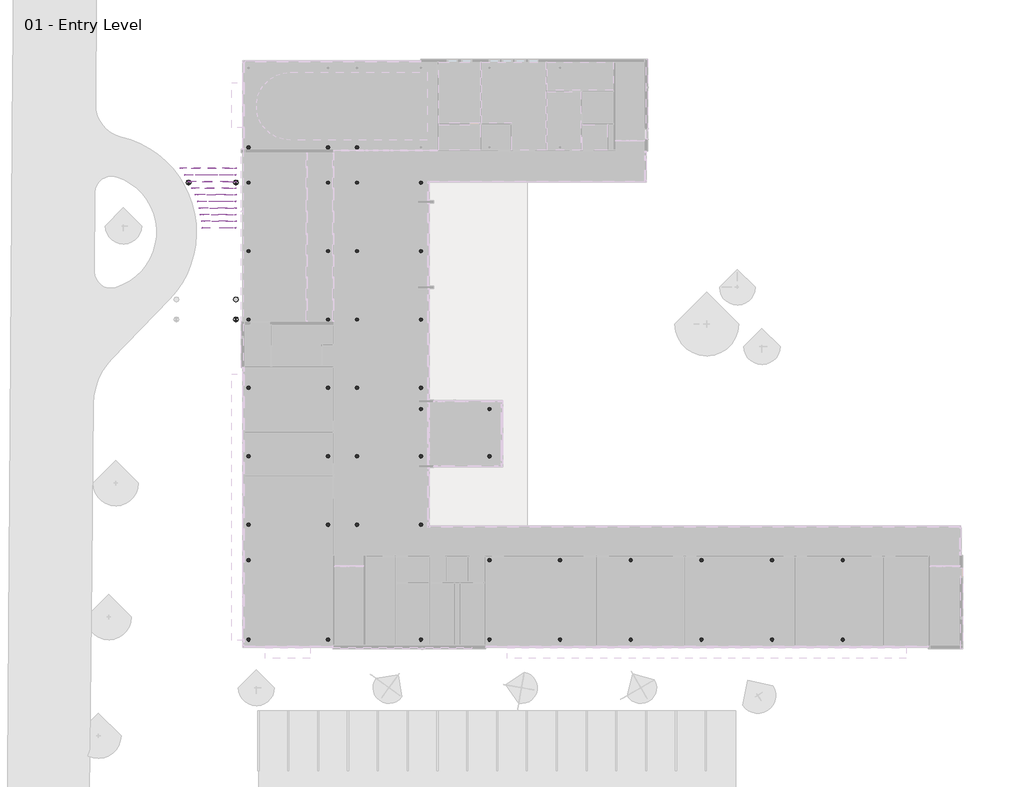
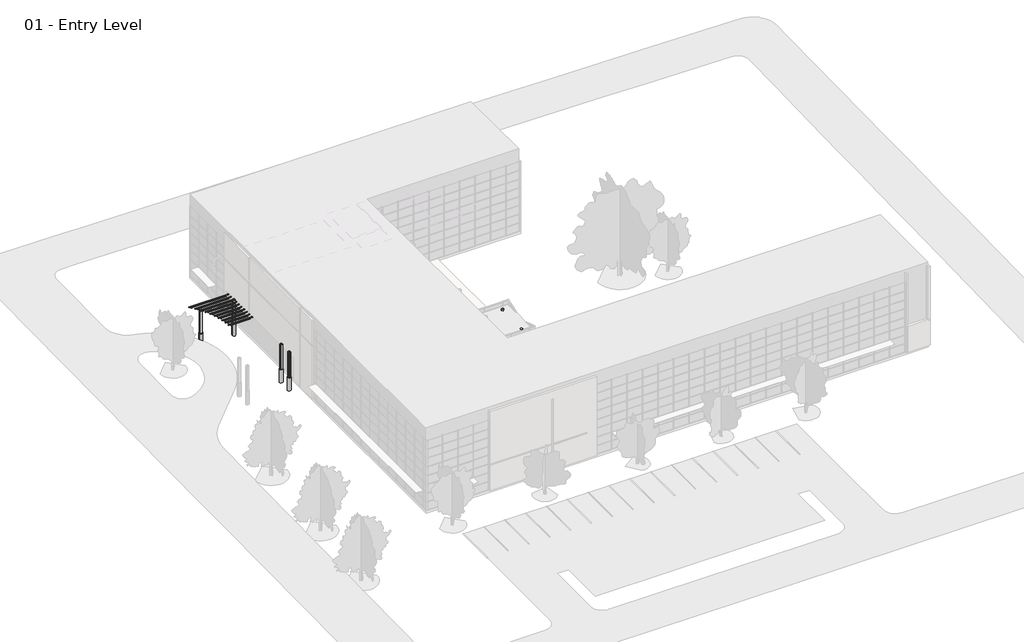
# One storey, part 33 of 34: 54 columns, 10 beams.
"""IFC4 building model written with IfcOpenShell, lengths in millimetres."""

from ifc_helpers import new_model, si_unit, point, frame, frame_2d, origin, origin_with_axes, place, context, project, spatial, polyline, circle_curve, trimmed, segment, composite_curve, outline, extrude, transform, mapped, element, save
from components import k_series_bar_joist_rod_web_8k1_3393dd89, k_series_bar_joist_rod_web_8k1_7a100831, k_series_bar_joist_rod_web_8k1_857b1893, k_series_bar_joist_rod_web_8k1_28d6b3e6, k_series_bar_joist_rod_web_8k1_8956f8d8, k_series_bar_joist_rod_web_8k1_41fa30a3, k_series_bar_joist_rod_web_8k1_279f3ebc, k_series_bar_joist_rod_web_8k1_170a1346, k_series_bar_joist_rod_web_8k1_a6564055, k_series_bar_joist_rod_web_8k1_291a3e72, column_5a4f3ead

model = new_model("IFC4")

# Units and contexts
model_context = context("Model", 3, world=origin())
ifc_project = project(units=[si_unit("LENGTHUNIT", "METRE", prefix="MILLI")], contexts=[model_context])

# Site, building, storey
site = spatial("IfcSite", under=ifc_project)
building = spatial("IfcBuilding", under=site)
storey = spatial("IfcBuildingStorey", under=building, Name="01 - Entry Level", Elevation=0.0)

# Beams
placement = place(None, origin())
k_series_bar_joist_rod_web_8k1_shape = k_series_bar_joist_rod_web_8k1_3393dd89(model_context)
element("IfcBeam", 1, ObjectType="K-Series Bar Joist-Rod Web : 8K1", at=placement, inside=storey, context=model_context, shape_type="MappedRepresentation", body=[
    mapped(k_series_bar_joist_rod_web_8k1_shape, transform((-3104.8739712, 43980.6692262, 3578.0497607), x_axis=(1.0, 0.0, 0.0), y_axis=(0.0, 0.9995376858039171, -0.030404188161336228), z_axis=(0.0, 0.030404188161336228, 0.9995376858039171))),
])
k_series_bar_joist_rod_web_8k1_2_shape = k_series_bar_joist_rod_web_8k1_7a100831(model_context)
element("IfcBeam", 2, ObjectType="K-Series Bar Joist-Rod Web : 8K1", at=placement, inside=storey, context=model_context, shape_type="MappedRepresentation", body=[
    mapped(k_series_bar_joist_rod_web_8k1_2_shape, transform((-2881.5442284, 43371.351053, 3596.5841538), x_axis=(1.0, 0.0, 0.0), y_axis=(0.0, 0.9995376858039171, -0.030404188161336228), z_axis=(0.0, 0.030404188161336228, 0.9995376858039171))),
])
k_series_bar_joist_rod_web_8k1_3_shape = k_series_bar_joist_rod_web_8k1_857b1893(model_context)
element("IfcBeam", 3, ObjectType="K-Series Bar Joist-Rod Web : 8K1", at=placement, inside=storey, context=model_context, shape_type="MappedRepresentation", body=[
    mapped(k_series_bar_joist_rod_web_8k1_3_shape, transform((-2692.822966, 42762.0328797, 3615.1185469), x_axis=(1.0, 0.0, 0.0), y_axis=(0.0, 0.9995376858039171, -0.030404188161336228), z_axis=(0.0, 0.030404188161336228, 0.9995376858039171))),
])
k_series_bar_joist_rod_web_8k1_4_shape = k_series_bar_joist_rod_web_8k1_28d6b3e6(model_context)
element("IfcBeam", 4, ObjectType="K-Series Bar Joist-Rod Web : 8K1", at=placement, inside=storey, context=model_context, shape_type="MappedRepresentation", body=[
    mapped(k_series_bar_joist_rod_web_8k1_4_shape, transform((-2534.1156648, 42152.7147064, 3633.65294), x_axis=(1.0, 0.0, 0.0), y_axis=(0.0, 0.9995376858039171, -0.030404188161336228), z_axis=(0.0, 0.030404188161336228, 0.9995376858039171))),
])
k_series_bar_joist_rod_web_8k1_5_shape = k_series_bar_joist_rod_web_8k1_8956f8d8(model_context)
element("IfcBeam", 5, ObjectType="K-Series Bar Joist-Rod Web : 8K1", at=placement, inside=storey, context=model_context, shape_type="MappedRepresentation", body=[
    mapped(k_series_bar_joist_rod_web_8k1_5_shape, transform((-2402.1725174, 41543.3965332, 3652.1873331), x_axis=(1.0, 0.0, 0.0), y_axis=(0.0, 0.9995376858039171, -0.030404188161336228), z_axis=(0.0, 0.030404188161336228, 0.9995376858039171))),
])
k_series_bar_joist_rod_web_8k1_6_shape = k_series_bar_joist_rod_web_8k1_41fa30a3(model_context)
element("IfcBeam", 6, ObjectType="K-Series Bar Joist-Rod Web : 8K1", at=placement, inside=storey, context=model_context, shape_type="MappedRepresentation", body=[
    mapped(k_series_bar_joist_rod_web_8k1_6_shape, transform((-2294.6420394, 40934.0783599, 3670.7217262), x_axis=(1.0, 0.0, 0.0), y_axis=(0.0, 0.9995376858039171, -0.030404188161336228), z_axis=(0.0, 0.030404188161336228, 0.9995376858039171))),
])
k_series_bar_joist_rod_web_8k1_7_shape = k_series_bar_joist_rod_web_8k1_279f3ebc(model_context)
element("IfcBeam", 7, ObjectType="K-Series Bar Joist-Rod Web : 8K1", at=placement, inside=storey, context=model_context, shape_type="MappedRepresentation", body=[
    mapped(k_series_bar_joist_rod_web_8k1_7_shape, transform((-2209.8086278, 40324.7601866, 3689.2561193), x_axis=(1.0, 0.0, 0.0), y_axis=(0.0, 0.9995376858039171, -0.030404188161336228), z_axis=(0.0, 0.030404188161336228, 0.9995376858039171))),
])
k_series_bar_joist_rod_web_8k1_8_shape = k_series_bar_joist_rod_web_8k1_170a1346(model_context)
element("IfcBeam", 8, ObjectType="K-Series Bar Joist-Rod Web : 8K1", at=placement, inside=storey, context=model_context, shape_type="MappedRepresentation", body=[
    mapped(k_series_bar_joist_rod_web_8k1_8_shape, transform((-2146.4311179, 39715.4420134, 3707.7905124), x_axis=(1.0, 0.0, 0.0), y_axis=(0.0, 0.9995376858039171, -0.030404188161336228), z_axis=(0.0, 0.030404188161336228, 0.9995376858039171))),
])
k_series_bar_joist_rod_web_8k1_9_shape = k_series_bar_joist_rod_web_8k1_a6564055(model_context)
element("IfcBeam", 9, ObjectType="K-Series Bar Joist-Rod Web : 8K1", at=placement, inside=storey, context=model_context, shape_type="MappedRepresentation", body=[
    mapped(k_series_bar_joist_rod_web_8k1_9_shape, transform((-2103.640984, 39106.1238401, 3726.3249056), x_axis=(1.0, 0.0, 0.0), y_axis=(0.0, 0.9995376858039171, -0.030404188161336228), z_axis=(0.0, 0.030404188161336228, 0.9995376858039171))),
])
k_series_bar_joist_rod_web_8k1_10_shape = k_series_bar_joist_rod_web_8k1_291a3e72(model_context)
element("IfcBeam", 10, ObjectType="K-Series Bar Joist-Rod Web : 8K1", at=placement, inside=storey, context=model_context, shape_type="MappedRepresentation", body=[
    mapped(k_series_bar_joist_rod_web_8k1_10_shape, transform((-2080.8782987, 38496.8056668, 3744.8592987), x_axis=(1.0, 0.0, 0.0), y_axis=(0.0, 0.9995376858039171, -0.030404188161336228), z_axis=(0.0, 0.030404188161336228, 0.9995376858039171))),
])

# Columns
element("IfcColumn", 11, ObjectType="Concrete-Round-Column : 12\"", at=placement, inside=storey, context=model_context, shape_type="SweptSolid", body=[
    extrude(outline(composite_curve([segment(trimmed(circle_curve(frame_2d((635.9207476, 45913.6)), 152.4), [point((788.3207476, 45913.6))], [point((483.5207476, 45913.6))], False, "CARTESIAN"), True, "CONTINUOUS"), segment(trimmed(circle_curve(frame_2d((635.9207476, 45913.6)), 152.4), [point((483.5207476, 45913.6))], [point((788.3207476, 45913.6))], False, "CARTESIAN"), True, "CONTINUOUS")], self_intersect=False)), origin_with_axes(), (0.0, 0.0, 1.0), 3403.6),
])
element("IfcColumn", 12, ObjectType="Concrete-Round-Column : 12\"", at=placement, inside=storey, context=model_context, shape_type="SweptSolid", body=[
    extrude(outline(composite_curve([segment(trimmed(circle_curve(frame_2d((635.9207476, 42662.4)), 152.4), [point((788.3207476, 42662.4))], [point((483.5207476, 42662.4))], False, "CARTESIAN"), True, "CONTINUOUS"), segment(trimmed(circle_curve(frame_2d((635.9207476, 42662.4)), 152.4), [point((483.5207476, 42662.4))], [point((788.3207476, 42662.4))], False, "CARTESIAN"), True, "CONTINUOUS")], self_intersect=False)), origin_with_axes(), (0.0, 0.0, 1.0), 3403.6),
])
element("IfcColumn", 13, ObjectType="Concrete-Round-Column : 12\"", at=placement, inside=storey, context=model_context, shape_type="SweptSolid", body=[
    extrude(outline(composite_curve([segment(trimmed(circle_curve(frame_2d((635.9207476, 36363.2)), 152.4), [point((788.3207476, 36363.2))], [point((483.5207476, 36363.2))], False, "CARTESIAN"), True, "CONTINUOUS"), segment(trimmed(circle_curve(frame_2d((635.9207476, 36363.2)), 152.4), [point((483.5207476, 36363.2))], [point((788.3207476, 36363.2))], False, "CARTESIAN"), True, "CONTINUOUS")], self_intersect=False)), origin_with_axes(), (0.0, 0.0, 1.0), 3403.6),
])
element("IfcColumn", 14, ObjectType="Concrete-Round-Column : 12\"", at=placement, inside=storey, context=model_context, shape_type="SweptSolid", body=[
    extrude(outline(composite_curve([segment(trimmed(circle_curve(frame_2d((635.9207476, 30064.0)), 152.4), [point((788.3207476, 30064.0))], [point((483.5207476, 30064.0))], False, "CARTESIAN"), True, "CONTINUOUS"), segment(trimmed(circle_curve(frame_2d((635.9207476, 30064.0)), 152.4), [point((483.5207476, 30064.0))], [point((788.3207476, 30064.0))], False, "CARTESIAN"), True, "CONTINUOUS")], self_intersect=False)), origin_with_axes(), (0.0, 0.0, 1.0), 3403.6),
])
element("IfcColumn", 15, ObjectType="Concrete-Round-Column : 12\"", at=placement, inside=storey, context=model_context, shape_type="SweptSolid", body=[
    extrude(outline(composite_curve([segment(trimmed(circle_curve(frame_2d((635.9207476, 23764.8)), 152.4), [point((788.3207476, 23764.8))], [point((483.5207476, 23764.8))], False, "CARTESIAN"), True, "CONTINUOUS"), segment(trimmed(circle_curve(frame_2d((635.9207476, 23764.8)), 152.4), [point((483.5207476, 23764.8))], [point((788.3207476, 23764.8))], False, "CARTESIAN"), True, "CONTINUOUS")], self_intersect=False)), origin_with_axes(), (0.0, 0.0, 1.0), 3403.6),
])
element("IfcColumn", 16, ObjectType="Concrete-Round-Column : 12\"", at=placement, inside=storey, context=model_context, shape_type="SweptSolid", body=[
    extrude(outline(composite_curve([segment(trimmed(circle_curve(frame_2d((635.9207476, 17465.6)), 152.4), [point((788.3207476, 17465.6))], [point((483.5207476, 17465.6))], False, "CARTESIAN"), True, "CONTINUOUS"), segment(trimmed(circle_curve(frame_2d((635.9207476, 17465.6)), 152.4), [point((483.5207476, 17465.6))], [point((788.3207476, 17465.6))], False, "CARTESIAN"), True, "CONTINUOUS")], self_intersect=False)), origin_with_axes(), (0.0, 0.0, 1.0), 3403.6),
])
element("IfcColumn", 17, ObjectType="Concrete-Round-Column : 12\"", at=placement, inside=storey, context=model_context, shape_type="SweptSolid", body=[
    extrude(outline(composite_curve([segment(trimmed(circle_curve(frame_2d((635.9207476, 11166.4)), 152.4), [point((788.3207476, 11166.4))], [point((483.5207476, 11166.4))], False, "CARTESIAN"), True, "CONTINUOUS"), segment(trimmed(circle_curve(frame_2d((635.9207476, 11166.4)), 152.4), [point((483.5207476, 11166.4))], [point((788.3207476, 11166.4))], False, "CARTESIAN"), True, "CONTINUOUS")], self_intersect=False)), origin_with_axes(), (0.0, 0.0, 1.0), 3403.6),
])
element("IfcColumn", 18, ObjectType="Concrete-Round-Column : 12\"", at=placement, inside=storey, context=model_context, shape_type="SweptSolid", body=[
    extrude(outline(composite_curve([segment(trimmed(circle_curve(frame_2d((635.9207476, 7915.2)), 152.4), [point((788.3207476, 7915.2))], [point((483.5207476, 7915.2))], False, "CARTESIAN"), True, "CONTINUOUS"), segment(trimmed(circle_curve(frame_2d((635.9207476, 7915.2)), 152.4), [point((483.5207476, 7915.2))], [point((788.3207476, 7915.2))], False, "CARTESIAN"), True, "CONTINUOUS")], self_intersect=False)), origin_with_axes(), (0.0, 0.0, 1.0), 3403.6),
])
element("IfcColumn", 19, ObjectType="Concrete-Round-Column : 12\"", at=placement, inside=storey, context=model_context, shape_type="SweptSolid", body=[
    extrude(outline(composite_curve([segment(trimmed(circle_curve(frame_2d((635.9207476, 600.0)), 152.4), [point((788.3207476, 600.0))], [point((483.5207476, 600.0))], False, "CARTESIAN"), True, "CONTINUOUS"), segment(trimmed(circle_curve(frame_2d((635.9207476, 600.0)), 152.4), [point((483.5207476, 600.0))], [point((788.3207476, 600.0))], False, "CARTESIAN"), True, "CONTINUOUS")], self_intersect=False)), origin_with_axes(), (0.0, 0.0, 1.0), 3403.6),
])
element("IfcColumn", 20, ObjectType="Concrete-Round-Column : 12\"", at=placement, inside=storey, context=model_context, shape_type="SweptSolid", body=[
    extrude(outline(composite_curve([segment(trimmed(circle_curve(frame_2d((10592.7207476, 45913.6)), 152.4), [point((10745.1207476, 45913.6))], [point((10440.3207476, 45913.6))], False, "CARTESIAN"), True, "CONTINUOUS"), segment(trimmed(circle_curve(frame_2d((10592.7207476, 45913.6)), 152.4), [point((10440.3207476, 45913.6))], [point((10745.1207476, 45913.6))], False, "CARTESIAN"), True, "CONTINUOUS")], self_intersect=False)), origin_with_axes(), (0.0, 0.0, 1.0), 3403.6),
])
element("IfcColumn", 21, ObjectType="Concrete-Round-Column : 12\"", at=placement, inside=storey, context=model_context, shape_type="SweptSolid", body=[
    extrude(outline(composite_curve([segment(trimmed(circle_curve(frame_2d((10592.7207476, 42662.4)), 152.4), [point((10745.1207476, 42662.4))], [point((10440.3207476, 42662.4))], False, "CARTESIAN"), True, "CONTINUOUS"), segment(trimmed(circle_curve(frame_2d((10592.7207476, 42662.4)), 152.4), [point((10440.3207476, 42662.4))], [point((10745.1207476, 42662.4))], False, "CARTESIAN"), True, "CONTINUOUS")], self_intersect=False)), origin_with_axes(), (0.0, 0.0, 1.0), 3403.6),
])
element("IfcColumn", 22, ObjectType="Concrete-Round-Column : 12\"", at=placement, inside=storey, context=model_context, shape_type="SweptSolid", body=[
    extrude(outline(composite_curve([segment(trimmed(circle_curve(frame_2d((10592.7207476, 36363.2)), 152.4), [point((10745.1207476, 36363.2))], [point((10440.3207476, 36363.2))], False, "CARTESIAN"), True, "CONTINUOUS"), segment(trimmed(circle_curve(frame_2d((10592.7207476, 36363.2)), 152.4), [point((10440.3207476, 36363.2))], [point((10745.1207476, 36363.2))], False, "CARTESIAN"), True, "CONTINUOUS")], self_intersect=False)), origin_with_axes(), (0.0, 0.0, 1.0), 3403.6),
])
element("IfcColumn", 23, ObjectType="Concrete-Round-Column : 12\"", at=placement, inside=storey, context=model_context, shape_type="SweptSolid", body=[
    extrude(outline(composite_curve([segment(trimmed(circle_curve(frame_2d((10592.7207476, 30064.0)), 152.4), [point((10745.1207476, 30064.0))], [point((10440.3207476, 30064.0))], False, "CARTESIAN"), True, "CONTINUOUS"), segment(trimmed(circle_curve(frame_2d((10592.7207476, 30064.0)), 152.4), [point((10440.3207476, 30064.0))], [point((10745.1207476, 30064.0))], False, "CARTESIAN"), True, "CONTINUOUS")], self_intersect=False)), origin_with_axes(), (0.0, 0.0, 1.0), 3403.6),
])
element("IfcColumn", 24, ObjectType="Concrete-Round-Column : 12\"", at=placement, inside=storey, context=model_context, shape_type="SweptSolid", body=[
    extrude(outline(composite_curve([segment(trimmed(circle_curve(frame_2d((10592.7207476, 23764.8)), 152.4), [point((10745.1207476, 23764.8))], [point((10440.3207476, 23764.8))], False, "CARTESIAN"), True, "CONTINUOUS"), segment(trimmed(circle_curve(frame_2d((10592.7207476, 23764.8)), 152.4), [point((10440.3207476, 23764.8))], [point((10745.1207476, 23764.8))], False, "CARTESIAN"), True, "CONTINUOUS")], self_intersect=False)), origin_with_axes(), (0.0, 0.0, 1.0), 3403.6),
])
element("IfcColumn", 25, ObjectType="Concrete-Round-Column : 12\"", at=placement, inside=storey, context=model_context, shape_type="SweptSolid", body=[
    extrude(outline(composite_curve([segment(trimmed(circle_curve(frame_2d((10592.7207476, 17465.6)), 152.4), [point((10745.1207476, 17465.6))], [point((10440.3207476, 17465.6))], False, "CARTESIAN"), True, "CONTINUOUS"), segment(trimmed(circle_curve(frame_2d((10592.7207476, 17465.6)), 152.4), [point((10440.3207476, 17465.6))], [point((10745.1207476, 17465.6))], False, "CARTESIAN"), True, "CONTINUOUS")], self_intersect=False)), origin_with_axes(), (0.0, 0.0, 1.0), 3403.6),
])
element("IfcColumn", 26, ObjectType="Concrete-Round-Column : 12\"", at=placement, inside=storey, context=model_context, shape_type="SweptSolid", body=[
    extrude(outline(composite_curve([segment(trimmed(circle_curve(frame_2d((10592.7207476, 11166.4)), 152.4), [point((10745.1207476, 11166.4))], [point((10440.3207476, 11166.4))], False, "CARTESIAN"), True, "CONTINUOUS"), segment(trimmed(circle_curve(frame_2d((10592.7207476, 11166.4)), 152.4), [point((10440.3207476, 11166.4))], [point((10745.1207476, 11166.4))], False, "CARTESIAN"), True, "CONTINUOUS")], self_intersect=False)), origin_with_axes(), (0.0, 0.0, 1.0), 3403.6),
])
element("IfcColumn", 27, ObjectType="Concrete-Round-Column : 12\"", at=placement, inside=storey, context=model_context, shape_type="SweptSolid", body=[
    extrude(outline(composite_curve([segment(trimmed(circle_curve(frame_2d((16485.5207476, 42662.4)), 152.4), [point((16637.9207476, 42662.4))], [point((16333.1207476, 42662.4))], False, "CARTESIAN"), True, "CONTINUOUS"), segment(trimmed(circle_curve(frame_2d((16485.5207476, 42662.4)), 152.4), [point((16333.1207476, 42662.4))], [point((16637.9207476, 42662.4))], False, "CARTESIAN"), True, "CONTINUOUS")], self_intersect=False)), origin_with_axes(), (0.0, 0.0, 1.0), 3403.6),
])
element("IfcColumn", 28, ObjectType="Concrete-Round-Column : 12\"", at=placement, inside=storey, context=model_context, shape_type="SweptSolid", body=[
    extrude(outline(composite_curve([segment(trimmed(circle_curve(frame_2d((16485.5207476, 36363.2)), 152.4), [point((16637.9207476, 36363.2))], [point((16333.1207476, 36363.2))], False, "CARTESIAN"), True, "CONTINUOUS"), segment(trimmed(circle_curve(frame_2d((16485.5207476, 36363.2)), 152.4), [point((16333.1207476, 36363.2))], [point((16637.9207476, 36363.2))], False, "CARTESIAN"), True, "CONTINUOUS")], self_intersect=False)), origin_with_axes(), (0.0, 0.0, 1.0), 3403.6),
])
element("IfcColumn", 29, ObjectType="Concrete-Round-Column : 12\"", at=placement, inside=storey, context=model_context, shape_type="SweptSolid", body=[
    extrude(outline(composite_curve([segment(trimmed(circle_curve(frame_2d((16485.5207476, 30064.0)), 152.4), [point((16637.9207476, 30064.0))], [point((16333.1207476, 30064.0))], False, "CARTESIAN"), True, "CONTINUOUS"), segment(trimmed(circle_curve(frame_2d((16485.5207476, 30064.0)), 152.4), [point((16333.1207476, 30064.0))], [point((16637.9207476, 30064.0))], False, "CARTESIAN"), True, "CONTINUOUS")], self_intersect=False)), origin_with_axes(), (0.0, 0.0, 1.0), 3403.6),
])
element("IfcColumn", 30, ObjectType="Concrete-Round-Column : 12\"", at=placement, inside=storey, context=model_context, shape_type="SweptSolid", body=[
    extrude(outline(composite_curve([segment(trimmed(circle_curve(frame_2d((16485.5207476, 23764.8)), 152.4), [point((16637.9207476, 23764.8))], [point((16333.1207476, 23764.8))], False, "CARTESIAN"), True, "CONTINUOUS"), segment(trimmed(circle_curve(frame_2d((16485.5207476, 23764.8)), 152.4), [point((16333.1207476, 23764.8))], [point((16637.9207476, 23764.8))], False, "CARTESIAN"), True, "CONTINUOUS")], self_intersect=False)), origin_with_axes(), (0.0, 0.0, 1.0), 3403.6),
])
element("IfcColumn", 31, ObjectType="Concrete-Round-Column : 12\"", at=placement, inside=storey, context=model_context, shape_type="SweptSolid", body=[
    extrude(outline(composite_curve([segment(trimmed(circle_curve(frame_2d((16485.5207476, 17465.6)), 152.4), [point((16637.9207476, 17465.6))], [point((16333.1207476, 17465.6))], False, "CARTESIAN"), True, "CONTINUOUS"), segment(trimmed(circle_curve(frame_2d((16485.5207476, 17465.6)), 152.4), [point((16333.1207476, 17465.6))], [point((16637.9207476, 17465.6))], False, "CARTESIAN"), True, "CONTINUOUS")], self_intersect=False)), origin_with_axes(), (0.0, 0.0, 1.0), 3403.6),
])
element("IfcColumn", 32, ObjectType="Concrete-Round-Column : 12\"", at=placement, inside=storey, context=model_context, shape_type="SweptSolid", body=[
    extrude(outline(composite_curve([segment(trimmed(circle_curve(frame_2d((16485.5207476, 11166.4)), 152.4), [point((16637.9207476, 11166.4))], [point((16333.1207476, 11166.4))], False, "CARTESIAN"), True, "CONTINUOUS"), segment(trimmed(circle_curve(frame_2d((16485.5207476, 11166.4)), 152.4), [point((16333.1207476, 11166.4))], [point((16637.9207476, 11166.4))], False, "CARTESIAN"), True, "CONTINUOUS")], self_intersect=False)), origin_with_axes(), (0.0, 0.0, 1.0), 3403.6),
])
element("IfcColumn", 33, ObjectType="Concrete-Round-Column : 12\"", at=placement, inside=storey, context=model_context, shape_type="SweptSolid", body=[
    extrude(outline(composite_curve([segment(trimmed(circle_curve(frame_2d((16485.5207476, 600.0)), 152.4), [point((16637.9207476, 600.0))], [point((16333.1207476, 600.0))], False, "CARTESIAN"), True, "CONTINUOUS"), segment(trimmed(circle_curve(frame_2d((16485.5207476, 600.0)), 152.4), [point((16333.1207476, 600.0))], [point((16637.9207476, 600.0))], False, "CARTESIAN"), True, "CONTINUOUS")], self_intersect=False)), origin_with_axes(), (0.0, 0.0, 1.0), 3403.6),
])
element("IfcColumn", 34, ObjectType="Concrete-Round-Column : 12\"", at=placement, inside=storey, context=model_context, shape_type="SweptSolid", body=[
    extrude(outline(composite_curve([segment(trimmed(circle_curve(frame_2d((16485.5207476, 21821.7)), 152.4), [point((16637.9207476, 21821.7))], [point((16333.1207476, 21821.7))], False, "CARTESIAN"), True, "CONTINUOUS"), segment(trimmed(circle_curve(frame_2d((16485.5207476, 21821.7)), 152.4), [point((16333.1207476, 21821.7))], [point((16637.9207476, 21821.7))], False, "CARTESIAN"), True, "CONTINUOUS")], self_intersect=False)), origin_with_axes(), (0.0, 0.0, 1.0), 3403.6),
])
element("IfcColumn", 35, ObjectType="Concrete-Round-Column : 12\"", at=placement, inside=storey, context=model_context, shape_type="SweptSolid", body=[
    extrude(outline(composite_curve([segment(trimmed(circle_curve(frame_2d((22784.7207476, 17465.6)), 152.4), [point((22937.1207476, 17465.6))], [point((22632.3207476, 17465.6))], False, "CARTESIAN"), True, "CONTINUOUS"), segment(trimmed(circle_curve(frame_2d((22784.7207476, 17465.6)), 152.4), [point((22632.3207476, 17465.6))], [point((22937.1207476, 17465.6))], False, "CARTESIAN"), True, "CONTINUOUS")], self_intersect=False)), origin_with_axes(), (0.0, 0.0, 1.0), 6782.5756061),
])
element("IfcColumn", 36, ObjectType="Concrete-Round-Column : 12\"", at=placement, inside=storey, context=model_context, shape_type="SweptSolid", body=[
    extrude(outline(composite_curve([segment(trimmed(circle_curve(frame_2d((22784.7207476, 7915.2)), 152.4), [point((22937.1207476, 7915.2))], [point((22632.3207476, 7915.2))], False, "CARTESIAN"), True, "CONTINUOUS"), segment(trimmed(circle_curve(frame_2d((22784.7207476, 7915.2)), 152.4), [point((22632.3207476, 7915.2))], [point((22937.1207476, 7915.2))], False, "CARTESIAN"), True, "CONTINUOUS")], self_intersect=False)), origin_with_axes(), (0.0, 0.0, 1.0), 3403.6),
])
element("IfcColumn", 37, ObjectType="Concrete-Round-Column : 12\"", at=placement, inside=storey, context=model_context, shape_type="SweptSolid", body=[
    extrude(outline(composite_curve([segment(trimmed(circle_curve(frame_2d((22784.7207476, 600.0)), 152.4), [point((22937.1207476, 600.0))], [point((22632.3207476, 600.0))], False, "CARTESIAN"), True, "CONTINUOUS"), segment(trimmed(circle_curve(frame_2d((22784.7207476, 600.0)), 152.4), [point((22632.3207476, 600.0))], [point((22937.1207476, 600.0))], False, "CARTESIAN"), True, "CONTINUOUS")], self_intersect=False)), origin_with_axes(), (0.0, 0.0, 1.0), 3403.6),
])
element("IfcColumn", 38, ObjectType="Concrete-Round-Column : 12\"", at=placement, inside=storey, context=model_context, shape_type="SweptSolid", body=[
    extrude(outline(composite_curve([segment(trimmed(circle_curve(frame_2d((22784.7207476, 21821.7)), 152.4), [point((22937.1207476, 21821.7))], [point((22632.3207476, 21821.7))], False, "CARTESIAN"), True, "CONTINUOUS"), segment(trimmed(circle_curve(frame_2d((22784.7207476, 21821.7)), 152.4), [point((22632.3207476, 21821.7))], [point((22937.1207476, 21821.7))], False, "CARTESIAN"), True, "CONTINUOUS")], self_intersect=False)), origin_with_axes(), (0.0, 0.0, 1.0), 6877.8256061),
])
element("IfcColumn", 39, ObjectType="Concrete-Round-Column : 12\"", at=placement, inside=storey, context=model_context, shape_type="SweptSolid", body=[
    extrude(outline(composite_curve([segment(trimmed(circle_curve(frame_2d((29287.1207476, 7915.2)), 152.4), [point((29439.5207476, 7915.2))], [point((29134.7207476, 7915.2))], False, "CARTESIAN"), True, "CONTINUOUS"), segment(trimmed(circle_curve(frame_2d((29287.1207476, 7915.2)), 152.4), [point((29134.7207476, 7915.2))], [point((29439.5207476, 7915.2))], False, "CARTESIAN"), True, "CONTINUOUS")], self_intersect=False)), origin_with_axes(), (0.0, 0.0, 1.0), 3403.6),
])
element("IfcColumn", 40, ObjectType="Concrete-Round-Column : 12\"", at=placement, inside=storey, context=model_context, shape_type="SweptSolid", body=[
    extrude(outline(composite_curve([segment(trimmed(circle_curve(frame_2d((29287.1207476, 600.0)), 152.4), [point((29439.5207476, 600.0))], [point((29134.7207476, 600.0))], False, "CARTESIAN"), True, "CONTINUOUS"), segment(trimmed(circle_curve(frame_2d((29287.1207476, 600.0)), 152.4), [point((29134.7207476, 600.0))], [point((29439.5207476, 600.0))], False, "CARTESIAN"), True, "CONTINUOUS")], self_intersect=False)), origin_with_axes(), (0.0, 0.0, 1.0), 3403.6),
])
element("IfcColumn", 41, ObjectType="Concrete-Round-Column : 12\"", at=placement, inside=storey, context=model_context, shape_type="SweptSolid", body=[
    extrude(outline(composite_curve([segment(trimmed(circle_curve(frame_2d((35789.5207476, 7915.2)), 152.4), [point((35941.9207476, 7915.2))], [point((35637.1207476, 7915.2))], False, "CARTESIAN"), True, "CONTINUOUS"), segment(trimmed(circle_curve(frame_2d((35789.5207476, 7915.2)), 152.4), [point((35637.1207476, 7915.2))], [point((35941.9207476, 7915.2))], False, "CARTESIAN"), True, "CONTINUOUS")], self_intersect=False)), origin_with_axes(), (0.0, 0.0, 1.0), 3403.6),
])
element("IfcColumn", 42, ObjectType="Concrete-Round-Column : 12\"", at=placement, inside=storey, context=model_context, shape_type="SweptSolid", body=[
    extrude(outline(composite_curve([segment(trimmed(circle_curve(frame_2d((35789.5207476, 600.0)), 152.4), [point((35941.9207476, 600.0))], [point((35637.1207476, 600.0))], False, "CARTESIAN"), True, "CONTINUOUS"), segment(trimmed(circle_curve(frame_2d((35789.5207476, 600.0)), 152.4), [point((35637.1207476, 600.0))], [point((35941.9207476, 600.0))], False, "CARTESIAN"), True, "CONTINUOUS")], self_intersect=False)), origin_with_axes(), (0.0, 0.0, 1.0), 3403.6),
])
element("IfcColumn", 43, ObjectType="Concrete-Round-Column : 12\"", at=placement, inside=storey, context=model_context, shape_type="SweptSolid", body=[
    extrude(outline(composite_curve([segment(trimmed(circle_curve(frame_2d((42291.9207476, 7915.2)), 152.4), [point((42444.3207476, 7915.2))], [point((42139.5207476, 7915.2))], False, "CARTESIAN"), True, "CONTINUOUS"), segment(trimmed(circle_curve(frame_2d((42291.9207476, 7915.2)), 152.4), [point((42139.5207476, 7915.2))], [point((42444.3207476, 7915.2))], False, "CARTESIAN"), True, "CONTINUOUS")], self_intersect=False)), origin_with_axes(), (0.0, 0.0, 1.0), 3403.6),
])
element("IfcColumn", 44, ObjectType="Concrete-Round-Column : 12\"", at=placement, inside=storey, context=model_context, shape_type="SweptSolid", body=[
    extrude(outline(composite_curve([segment(trimmed(circle_curve(frame_2d((42291.9207476, 600.0)), 152.4), [point((42444.3207476, 600.0))], [point((42139.5207476, 600.0))], False, "CARTESIAN"), True, "CONTINUOUS"), segment(trimmed(circle_curve(frame_2d((42291.9207476, 600.0)), 152.4), [point((42139.5207476, 600.0))], [point((42444.3207476, 600.0))], False, "CARTESIAN"), True, "CONTINUOUS")], self_intersect=False)), origin_with_axes(), (0.0, 0.0, 1.0), 3403.6),
])
element("IfcColumn", 45, ObjectType="Concrete-Round-Column : 12\"", at=placement, inside=storey, context=model_context, shape_type="SweptSolid", body=[
    extrude(outline(composite_curve([segment(trimmed(circle_curve(frame_2d((48794.3207476, 7915.2)), 152.4), [point((48946.7207476, 7915.2))], [point((48641.9207476, 7915.2))], False, "CARTESIAN"), True, "CONTINUOUS"), segment(trimmed(circle_curve(frame_2d((48794.3207476, 7915.2)), 152.4), [point((48641.9207476, 7915.2))], [point((48946.7207476, 7915.2))], False, "CARTESIAN"), True, "CONTINUOUS")], self_intersect=False)), origin_with_axes(), (0.0, 0.0, 1.0), 3403.6),
])
element("IfcColumn", 46, ObjectType="Concrete-Round-Column : 12\"", at=placement, inside=storey, context=model_context, shape_type="SweptSolid", body=[
    extrude(outline(composite_curve([segment(trimmed(circle_curve(frame_2d((48794.3207476, 600.0)), 152.4), [point((48946.7207476, 600.0))], [point((48641.9207476, 600.0))], False, "CARTESIAN"), True, "CONTINUOUS"), segment(trimmed(circle_curve(frame_2d((48794.3207476, 600.0)), 152.4), [point((48641.9207476, 600.0))], [point((48946.7207476, 600.0))], False, "CARTESIAN"), True, "CONTINUOUS")], self_intersect=False)), origin_with_axes(), (0.0, 0.0, 1.0), 3403.6),
])
element("IfcColumn", 47, ObjectType="Concrete-Round-Column : 12\"", at=placement, inside=storey, context=model_context, shape_type="SweptSolid", body=[
    extrude(outline(composite_curve([segment(trimmed(circle_curve(frame_2d((55296.7207476, 7915.2)), 152.4), [point((55449.1207476, 7915.2))], [point((55144.3207476, 7915.2))], False, "CARTESIAN"), True, "CONTINUOUS"), segment(trimmed(circle_curve(frame_2d((55296.7207476, 7915.2)), 152.4), [point((55144.3207476, 7915.2))], [point((55449.1207476, 7915.2))], False, "CARTESIAN"), True, "CONTINUOUS")], self_intersect=False)), origin_with_axes(), (0.0, 0.0, 1.0), 3403.6),
])
element("IfcColumn", 48, ObjectType="Concrete-Round-Column : 12\"", at=placement, inside=storey, context=model_context, shape_type="SweptSolid", body=[
    extrude(outline(composite_curve([segment(trimmed(circle_curve(frame_2d((55296.7207476, 600.0)), 152.4), [point((55449.1207476, 600.0))], [point((55144.3207476, 600.0))], False, "CARTESIAN"), True, "CONTINUOUS"), segment(trimmed(circle_curve(frame_2d((55296.7207476, 600.0)), 152.4), [point((55144.3207476, 600.0))], [point((55449.1207476, 600.0))], False, "CARTESIAN"), True, "CONTINUOUS")], self_intersect=False)), origin_with_axes(), (0.0, 0.0, 1.0), 3403.6),
])
element("IfcColumn", 49, ObjectType="Concrete-Round-Column : 12\"", at=placement, inside=storey, context=model_context, shape_type="SweptSolid", body=[
    extrude(outline(composite_curve([segment(trimmed(circle_curve(frame_2d((7951.1207476, 45913.6)), 152.4), [point((8103.5207476, 45913.6))], [point((7798.7207476, 45913.6))], False, "CARTESIAN"), True, "CONTINUOUS"), segment(trimmed(circle_curve(frame_2d((7951.1207476, 45913.6)), 152.4), [point((7798.7207476, 45913.6))], [point((8103.5207476, 45913.6))], False, "CARTESIAN"), True, "CONTINUOUS")], self_intersect=False)), origin_with_axes(), (0.0, 0.0, 1.0), 3403.6),
])
element("IfcColumn", 50, ObjectType="Concrete-Round-Column : 12\"", at=placement, inside=storey, context=model_context, shape_type="SweptSolid", body=[
    extrude(outline(composite_curve([segment(trimmed(circle_curve(frame_2d((7951.1207476, 42662.4)), 152.4), [point((8103.5207476, 42662.4))], [point((7798.7207476, 42662.4))], False, "CARTESIAN"), True, "CONTINUOUS"), segment(trimmed(circle_curve(frame_2d((7951.1207476, 42662.4)), 152.4), [point((7798.7207476, 42662.4))], [point((8103.5207476, 42662.4))], False, "CARTESIAN"), True, "CONTINUOUS")], self_intersect=False)), origin_with_axes(), (0.0, 0.0, 1.0), 3403.6),
])
element("IfcColumn", 51, ObjectType="Concrete-Round-Column : 12\"", at=placement, inside=storey, context=model_context, shape_type="SweptSolid", body=[
    extrude(outline(composite_curve([segment(trimmed(circle_curve(frame_2d((7951.1207476, 36363.2)), 152.4), [point((8103.5207476, 36363.2))], [point((7798.7207476, 36363.2))], False, "CARTESIAN"), True, "CONTINUOUS"), segment(trimmed(circle_curve(frame_2d((7951.1207476, 36363.2)), 152.4), [point((7798.7207476, 36363.2))], [point((8103.5207476, 36363.2))], False, "CARTESIAN"), True, "CONTINUOUS")], self_intersect=False)), origin_with_axes(), (0.0, 0.0, 1.0), 3403.6),
])
element("IfcColumn", 52, ObjectType="Concrete-Round-Column : 12\"", at=placement, inside=storey, context=model_context, shape_type="SweptSolid", body=[
    extrude(outline(composite_curve([segment(trimmed(circle_curve(frame_2d((7951.1207476, 30064.0)), 152.4), [point((8103.5207476, 30064.0))], [point((7798.7207476, 30064.0))], False, "CARTESIAN"), True, "CONTINUOUS"), segment(trimmed(circle_curve(frame_2d((7951.1207476, 30064.0)), 152.4), [point((7798.7207476, 30064.0))], [point((8103.5207476, 30064.0))], False, "CARTESIAN"), True, "CONTINUOUS")], self_intersect=False)), origin_with_axes(), (0.0, 0.0, 1.0), 3403.6),
])
element("IfcColumn", 53, ObjectType="Concrete-Round-Column : 12\"", at=placement, inside=storey, context=model_context, shape_type="SweptSolid", body=[
    extrude(outline(composite_curve([segment(trimmed(circle_curve(frame_2d((7951.1207476, 23764.8)), 152.4), [point((8103.5207476, 23764.8))], [point((7798.7207476, 23764.8))], False, "CARTESIAN"), True, "CONTINUOUS"), segment(trimmed(circle_curve(frame_2d((7951.1207476, 23764.8)), 152.4), [point((7798.7207476, 23764.8))], [point((8103.5207476, 23764.8))], False, "CARTESIAN"), True, "CONTINUOUS")], self_intersect=False)), origin_with_axes(), (0.0, 0.0, 1.0), 3403.6),
])
element("IfcColumn", 54, ObjectType="Concrete-Round-Column : 12\"", at=placement, inside=storey, context=model_context, shape_type="SweptSolid", body=[
    extrude(outline(composite_curve([segment(trimmed(circle_curve(frame_2d((7951.1207476, 17465.6)), 152.4), [point((8103.5207476, 17465.6))], [point((7798.7207476, 17465.6))], False, "CARTESIAN"), True, "CONTINUOUS"), segment(trimmed(circle_curve(frame_2d((7951.1207476, 17465.6)), 152.4), [point((7798.7207476, 17465.6))], [point((8103.5207476, 17465.6))], False, "CARTESIAN"), True, "CONTINUOUS")], self_intersect=False)), origin_with_axes(), (0.0, 0.0, 1.0), 3403.6),
])
element("IfcColumn", 55, ObjectType="Concrete-Round-Column : 12\"", at=placement, inside=storey, context=model_context, shape_type="SweptSolid", body=[
    extrude(outline(composite_curve([segment(trimmed(circle_curve(frame_2d((7951.1207476, 11166.4)), 152.4), [point((8103.5207476, 11166.4))], [point((7798.7207476, 11166.4))], False, "CARTESIAN"), True, "CONTINUOUS"), segment(trimmed(circle_curve(frame_2d((7951.1207476, 11166.4)), 152.4), [point((7798.7207476, 11166.4))], [point((8103.5207476, 11166.4))], False, "CARTESIAN"), True, "CONTINUOUS")], self_intersect=False)), origin_with_axes(), (0.0, 0.0, 1.0), 3403.6),
])
element("IfcColumn", 56, ObjectType="Concrete-Round-Column : 12\"", at=placement, inside=storey, context=model_context, shape_type="SweptSolid", body=[
    extrude(outline(composite_curve([segment(trimmed(circle_curve(frame_2d((7951.1207476, 600.0)), 152.4), [point((8103.5207476, 600.0))], [point((7798.7207476, 600.0))], False, "CARTESIAN"), True, "CONTINUOUS"), segment(trimmed(circle_curve(frame_2d((7951.1207476, 600.0)), 152.4), [point((7798.7207476, 600.0))], [point((8103.5207476, 600.0))], False, "CARTESIAN"), True, "CONTINUOUS")], self_intersect=False)), origin_with_axes(), (0.0, 0.0, 1.0), 3403.6),
])
column_shape = column_5a4f3ead(model_context)
element("IfcColumn", 57, ObjectType="Concrete-Round-Column1 : 18\"", at=placement, inside=storey, context=model_context, shape_type="MappedRepresentation", body=[
    mapped(column_shape, transform((-532.4792524, 30064.0, 0.0), x_axis=(1.0, 0.0, 0.0), y_axis=(0.0, 1.0, 0.0), z_axis=(0.0, 0.0, 1.0))),
])
element("IfcColumn", 58, ObjectType="Concrete-Round-Column1 : 18\"", at=placement, inside=storey, context=model_context, shape_type="MappedRepresentation", body=[
    mapped(column_shape, transform((-532.4792524, 31909.0364163, 0.0), x_axis=(1.0, 0.0, 0.0), y_axis=(0.0, 1.0, 0.0), z_axis=(0.0, 0.0, 1.0))),
])
element("IfcColumn", 59, ObjectType="Concrete-Round-Column1 : 18\"", at=placement, inside=storey, context=model_context, shape_type="MappedRepresentation", body=[
    mapped(column_shape, transform((-4873.7100995, 42662.4, 0.0), x_axis=(1.0, 0.0, 0.0), y_axis=(0.0, 1.0, 0.0), z_axis=(0.0, 0.0, 1.0))),
])
element("IfcColumn", 60, ObjectType="Concrete-Round-Column1 : 18\"", at=placement, inside=storey, context=model_context, shape_type="MappedRepresentation", body=[
    mapped(column_shape, transform((-532.4792524, 42662.4, 0.0), x_axis=(1.0, 0.0, 0.0), y_axis=(0.0, 1.0, 0.0), z_axis=(0.0, 0.0, 1.0))),
])
element("IfcColumn", 61, ObjectType="W-Wide Flange-Column : W10X49", at=placement, inside=storey, context=model_context, shape_type="SweptSolid", body=[
    extrude(outline(composite_curve([segment(polyline([(-405.4792524, 30190.7519531), (-405.4792524, 30176.5636719), (-510.601518, 30176.5636719)]), True, "CONTINUOUS"), segment(trimmed(circle_curve(frame_2d((-510.601518, 30159.0019531)), 17.5617187), [point((-510.601518, 30176.5636719))], [point((-528.1632367, 30159.0019531))], True, "CARTESIAN"), True, "CONTINUOUS"), segment(polyline([(-528.1632367, 30159.0019531), (-528.1632367, 29968.9980469)]), True, "CONTINUOUS"), segment(trimmed(circle_curve(frame_2d((-510.601518, 29968.9980469)), 17.5617188), [point((-528.1632367, 29968.9980469))], [point((-510.601518, 29951.4363281))], True, "CARTESIAN"), True, "CONTINUOUS"), segment(polyline([(-510.601518, 29951.4363281), (-405.4792524, 29951.4363281), (-405.4792524, 29937.2480469), (-659.4792524, 29937.2480469), (-659.4792524, 29951.4363281), (-554.3569867, 29951.4363281)]), True, "CONTINUOUS"), segment(trimmed(circle_curve(frame_2d((-554.3569867, 29968.9980469)), 17.5617188), [point((-554.3569867, 29951.4363281))], [point((-536.795268, 29968.9980469))], True, "CARTESIAN"), True, "CONTINUOUS"), segment(polyline([(-536.795268, 29968.9980469), (-536.795268, 30159.0019531)]), True, "CONTINUOUS"), segment(trimmed(circle_curve(frame_2d((-554.3569867, 30159.0019531)), 17.5617188), [point((-536.795268, 30159.0019531))], [point((-554.3569867, 30176.5636719))], True, "CARTESIAN"), True, "CONTINUOUS"), segment(polyline([(-554.3569867, 30176.5636719), (-659.4792524, 30176.5636719), (-659.4792524, 30190.7519531), (-405.4792524, 30190.7519531)]), True, "CONTINUOUS")], self_intersect=False)), frame((0.0, 0.0, 609.6), z_axis=(0.0, 0.0, 1.0), x_axis=(1.0, 0.0, 0.0)), (0.0, 0.0, 1.0), 3489.5619178),
])
element("IfcColumn", 62, ObjectType="W-Wide Flange-Column : W10X49", at=placement, inside=storey, context=model_context, shape_type="SweptSolid", body=[
    extrude(outline(composite_curve([segment(polyline([(-405.4792524, 42789.1519531), (-405.4792524, 42774.9636719), (-510.601518, 42774.9636719)]), True, "CONTINUOUS"), segment(trimmed(circle_curve(frame_2d((-510.601518, 42757.4019531)), 17.5617188), [point((-510.601518, 42774.9636719))], [point((-528.1632367, 42757.4019531))], True, "CARTESIAN"), True, "CONTINUOUS"), segment(polyline([(-528.1632367, 42757.4019531), (-528.1632367, 42567.3980469)]), True, "CONTINUOUS"), segment(trimmed(circle_curve(frame_2d((-510.601518, 42567.3980469)), 17.5617188), [point((-528.1632367, 42567.3980469))], [point((-510.601518, 42549.8363281))], True, "CARTESIAN"), True, "CONTINUOUS"), segment(polyline([(-510.601518, 42549.8363281), (-405.4792524, 42549.8363281), (-405.4792524, 42535.6480469), (-659.4792524, 42535.6480469), (-659.4792524, 42549.8363281), (-554.3569867, 42549.8363281)]), True, "CONTINUOUS"), segment(trimmed(circle_curve(frame_2d((-554.3569867, 42567.3980469)), 17.5617188), [point((-554.3569867, 42549.8363281))], [point((-536.795268, 42567.3980469))], True, "CARTESIAN"), True, "CONTINUOUS"), segment(polyline([(-536.795268, 42567.3980469), (-536.795268, 42757.4019531)]), True, "CONTINUOUS"), segment(trimmed(circle_curve(frame_2d((-554.3569867, 42757.4019531)), 17.5617188), [point((-536.795268, 42757.4019531))], [point((-554.3569867, 42774.9636719))], True, "CARTESIAN"), True, "CONTINUOUS"), segment(polyline([(-554.3569867, 42774.9636719), (-659.4792524, 42774.9636719), (-659.4792524, 42789.1519531), (-405.4792524, 42789.1519531)]), True, "CONTINUOUS")], self_intersect=False)), frame((0.0, 0.0, 609.6), z_axis=(0.0, 0.0, 1.0), x_axis=(1.0, 0.0, 0.0)), (0.0, 0.0, 1.0), 3106.340625),
])
element("IfcColumn", 63, ObjectType="W-Wide Flange-Column : W10X49", at=placement, inside=storey, context=model_context, shape_type="SweptSolid", body=[
    extrude(outline(composite_curve([segment(polyline([(-4746.7100995, 42789.1519531), (-4746.7100995, 42774.9636719), (-4851.8323651, 42774.9636719)]), True, "CONTINUOUS"), segment(trimmed(circle_curve(frame_2d((-4851.8323651, 42757.4019531)), 17.5617188), [point((-4851.8323651, 42774.9636719))], [point((-4869.3940839, 42757.4019531))], True, "CARTESIAN"), True, "CONTINUOUS"), segment(polyline([(-4869.3940839, 42757.4019531), (-4869.3940839, 42567.3980469)]), True, "CONTINUOUS"), segment(trimmed(circle_curve(frame_2d((-4851.8323651, 42567.3980469)), 17.5617188), [point((-4869.3940839, 42567.3980469))], [point((-4851.8323651, 42549.8363281))], True, "CARTESIAN"), True, "CONTINUOUS"), segment(polyline([(-4851.8323651, 42549.8363281), (-4746.7100995, 42549.8363281), (-4746.7100995, 42535.6480469), (-5000.7100995, 42535.6480469), (-5000.7100995, 42549.8363281), (-4895.5878339, 42549.8363281)]), True, "CONTINUOUS"), segment(trimmed(circle_curve(frame_2d((-4895.5878339, 42567.3980469)), 17.5617188), [point((-4895.5878339, 42549.8363281))], [point((-4878.0261151, 42567.3980469))], True, "CARTESIAN"), True, "CONTINUOUS"), segment(polyline([(-4878.0261151, 42567.3980469), (-4878.0261151, 42757.4019531)]), True, "CONTINUOUS"), segment(trimmed(circle_curve(frame_2d((-4895.5878339, 42757.4019531)), 17.5617188), [point((-4878.0261151, 42757.4019531))], [point((-4895.5878339, 42774.9636719))], True, "CARTESIAN"), True, "CONTINUOUS"), segment(polyline([(-4895.5878339, 42774.9636719), (-5000.7100995, 42774.9636719), (-5000.7100995, 42789.1519531), (-4746.7100995, 42789.1519531)]), True, "CONTINUOUS")], self_intersect=False)), frame((0.0, 0.0, 609.6), z_axis=(0.0, 0.0, 1.0), x_axis=(1.0, 0.0, 0.0)), (0.0, 0.0, 1.0), 3106.340625),
])
element("IfcColumn", 64, ObjectType="W-Wide Flange-Column : W10X49", at=placement, inside=storey, context=model_context, shape_type="SweptSolid", body=[
    extrude(outline(composite_curve([segment(polyline([(-405.4792524, 32035.7883694), (-405.4792524, 32021.6000882), (-510.601518, 32021.6000882)]), True, "CONTINUOUS"), segment(trimmed(circle_curve(frame_2d((-510.601518, 32004.0383694)), 17.5617187), [point((-510.601518, 32021.6000882))], [point((-528.1632367, 32004.0383694))], True, "CARTESIAN"), True, "CONTINUOUS"), segment(polyline([(-528.1632367, 32004.0383694), (-528.1632367, 31814.0344632)]), True, "CONTINUOUS"), segment(trimmed(circle_curve(frame_2d((-510.601518, 31814.0344632)), 17.5617188), [point((-528.1632367, 31814.0344632))], [point((-510.601518, 31796.4727444))], True, "CARTESIAN"), True, "CONTINUOUS"), segment(polyline([(-510.601518, 31796.4727444), (-405.4792524, 31796.4727444), (-405.4792524, 31782.2844632), (-659.4792524, 31782.2844632), (-659.4792524, 31796.4727444), (-554.3569867, 31796.4727444)]), True, "CONTINUOUS"), segment(trimmed(circle_curve(frame_2d((-554.3569867, 31814.0344632)), 17.5617188), [point((-554.3569867, 31796.4727444))], [point((-536.795268, 31814.0344632))], True, "CARTESIAN"), True, "CONTINUOUS"), segment(polyline([(-536.795268, 31814.0344632), (-536.795268, 32004.0383694)]), True, "CONTINUOUS"), segment(trimmed(circle_curve(frame_2d((-554.3569867, 32004.0383694)), 17.5617187), [point((-536.795268, 32004.0383694))], [point((-554.3569867, 32021.6000882))], True, "CARTESIAN"), True, "CONTINUOUS"), segment(polyline([(-554.3569867, 32021.6000882), (-659.4792524, 32021.6000882), (-659.4792524, 32035.7883694), (-405.4792524, 32035.7883694)]), True, "CONTINUOUS")], self_intersect=False)), frame((0.0, 0.0, 609.6), z_axis=(0.0, 0.0, 1.0), x_axis=(1.0, 0.0, 0.0)), (0.0, 0.0, 1.0), 3433.4391371),
])

save(model, "model.ifc")
